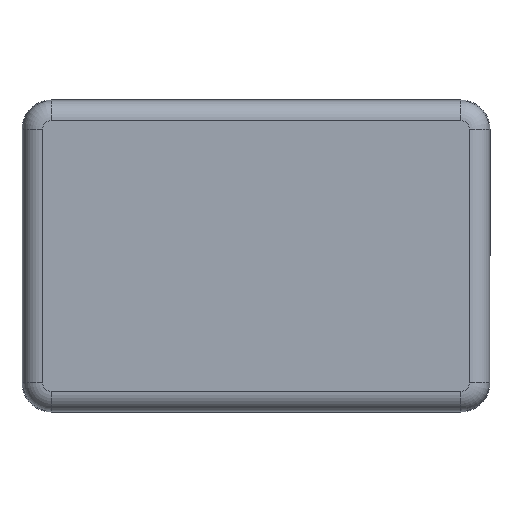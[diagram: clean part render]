
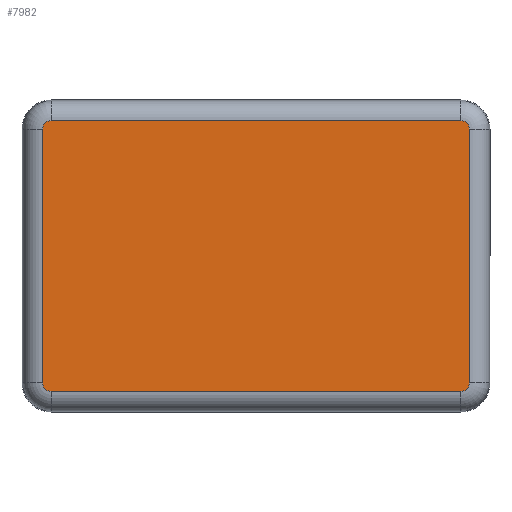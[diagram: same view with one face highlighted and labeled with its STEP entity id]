
A CAD part, front view. The second image highlights one B-rep face of the part: STEP entity #7982.
In plain terms, the highlighted planar face has unit normal (0, -1, 0).
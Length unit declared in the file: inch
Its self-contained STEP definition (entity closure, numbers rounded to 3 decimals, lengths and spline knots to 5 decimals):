
#30 = DIRECTION ( 'NONE',  ( 0., -1., 0. ) ) ;
#89 = EDGE_CURVE ( 'NONE', #6466, #7573, #4845, .T. ) ;
#93 = CARTESIAN_POINT ( 'NONE',  ( 2.73959, -0.75055, -1.627 ) ) ;
#203 = ORIENTED_EDGE ( 'NONE', *, *, #89, .T. ) ;
#329 = ORIENTED_EDGE ( 'NONE', *, *, #1361, .T. ) ;
#702 = DIRECTION ( 'NONE',  ( 0., 0., -1. ) ) ;
#758 = VECTOR ( 'NONE', #1447, 39.37008 ) ;
#773 = CIRCLE ( 'NONE', #6957, 0.11161 ) ;
#933 = CIRCLE ( 'NONE', #2355, 0.11161 ) ;
#1026 = DIRECTION ( 'NONE',  ( 0., 0., 1. ) ) ;
#1076 = CARTESIAN_POINT ( 'NONE',  ( 2.73959, -0.75055, -1.627 ) ) ;
#1304 = ORIENTED_EDGE ( 'NONE', *, *, #7800, .T. ) ;
#1305 = DIRECTION ( 'NONE',  ( 0., -1., 0. ) ) ;
#1361 = EDGE_CURVE ( 'NONE', #2479, #5509, #773, .T. ) ;
#1391 = ORIENTED_EDGE ( 'NONE', *, *, #6522, .T. ) ;
#1447 = DIRECTION ( 'NONE',  ( 0., 0., -1. ) ) ;
#1536 = VERTEX_POINT ( 'NONE', #1076 ) ;
#1582 = EDGE_CURVE ( 'NONE', #1536, #2479, #8678, .T. ) ;
#1602 = CARTESIAN_POINT ( 'NONE',  ( 2.62798, -0.75055, -1.73861 ) ) ;
#2055 = EDGE_CURVE ( 'NONE', #6417, #5141, #10951, .T. ) ;
#2355 = AXIS2_PLACEMENT_3D ( 'NONE', #3208, #7361, #6479 ) ;
#2479 = VERTEX_POINT ( 'NONE', #5664 ) ;
#2773 = ORIENTED_EDGE ( 'NONE', *, *, #7583, .T. ) ;
#2823 = DIRECTION ( 'NONE',  ( -1., 0., 0. ) ) ;
#3151 = ORIENTED_EDGE ( 'NONE', *, *, #9033, .T. ) ;
#3202 = PLANE ( 'NONE',  #10005 ) ;
#3208 = CARTESIAN_POINT ( 'NONE',  ( -2.62798, -0.75055, 1.627 ) ) ;
#3590 = CARTESIAN_POINT ( 'NONE',  ( -2.62798, -0.75055, 1.73861 ) ) ;
#4264 = ORIENTED_EDGE ( 'NONE', *, *, #1582, .T. ) ;
#4423 = VERTEX_POINT ( 'NONE', #5598 ) ;
#4428 = LINE ( 'NONE', #3590, #6799 ) ;
#4717 = AXIS2_PLACEMENT_3D ( 'NONE', #6160, #10596, #10381 ) ;
#4845 = LINE ( 'NONE', #5006, #758 ) ;
#4878 = DIRECTION ( 'NONE',  ( 0., 0., -1. ) ) ;
#4899 = EDGE_LOOP ( 'NONE', ( #329, #1304, #1391, #203, #2773, #5736, #3151, #4264 ) ) ;
#5006 = CARTESIAN_POINT ( 'NONE',  ( -2.73959, -0.75055, -1.627 ) ) ;
#5141 = VERTEX_POINT ( 'NONE', #1602 ) ;
#5403 = AXIS2_PLACEMENT_3D ( 'NONE', #9745, #1305, #5597 ) ;
#5509 = VERTEX_POINT ( 'NONE', #10458 ) ;
#5597 = DIRECTION ( 'NONE',  ( 0., 0., -1. ) ) ;
#5598 = CARTESIAN_POINT ( 'NONE',  ( -2.62798, -0.75055, 1.73861 ) ) ;
#5649 = CARTESIAN_POINT ( 'NONE',  ( -2.73959, -0.75055, -1.627 ) ) ;
#5664 = CARTESIAN_POINT ( 'NONE',  ( 2.73959, -0.75055, 1.627 ) ) ;
#5696 = CARTESIAN_POINT ( 'NONE',  ( -2.62798, -0.75055, -1.627 ) ) ;
#5736 = ORIENTED_EDGE ( 'NONE', *, *, #2055, .T. ) ;
#6160 = CARTESIAN_POINT ( 'NONE',  ( 2.62798, -0.75055, -1.627 ) ) ;
#6259 = CARTESIAN_POINT ( 'NONE',  ( -2.62798, -0.75055, -1.73861 ) ) ;
#6417 = VERTEX_POINT ( 'NONE', #6259 ) ;
#6466 = VERTEX_POINT ( 'NONE', #8250 ) ;
#6479 = DIRECTION ( 'NONE',  ( 0., 0., -1. ) ) ;
#6522 = EDGE_CURVE ( 'NONE', #4423, #6466, #933, .T. ) ;
#6799 = VECTOR ( 'NONE', #2823, 39.37008 ) ;
#6957 = AXIS2_PLACEMENT_3D ( 'NONE', #8126, #30, #4878 ) ;
#7361 = DIRECTION ( 'NONE',  ( 0., -1., 0. ) ) ;
#7510 = DIRECTION ( 'NONE',  ( 0., -1., 0. ) ) ;
#7573 = VERTEX_POINT ( 'NONE', #5649 ) ;
#7583 = EDGE_CURVE ( 'NONE', #7573, #6417, #10353, .T. ) ;
#7800 = EDGE_CURVE ( 'NONE', #5509, #4423, #4428, .T. ) ;
#7982 = ADVANCED_FACE ( 'NONE', ( #10806 ), #3202, .T. ) ;
#8126 = CARTESIAN_POINT ( 'NONE',  ( 2.62798, -0.75055, 1.627 ) ) ;
#8149 = DIRECTION ( 'NONE',  ( 1., 0., 0. ) ) ;
#8219 = VECTOR ( 'NONE', #8149, 39.37008 ) ;
#8250 = CARTESIAN_POINT ( 'NONE',  ( -2.73959, -0.75055, 1.627 ) ) ;
#8322 = CARTESIAN_POINT ( 'NONE',  ( -2.62798, -0.75055, -1.73861 ) ) ;
#8678 = LINE ( 'NONE', #93, #9278 ) ;
#9033 = EDGE_CURVE ( 'NONE', #5141, #1536, #10922, .T. ) ;
#9278 = VECTOR ( 'NONE', #1026, 39.37008 ) ;
#9745 = CARTESIAN_POINT ( 'NONE',  ( -2.62798, -0.75055, -1.627 ) ) ;
#10005 = AXIS2_PLACEMENT_3D ( 'NONE', #5696, #7510, #702 ) ;
#10353 = CIRCLE ( 'NONE', #5403, 0.11161 ) ;
#10381 = DIRECTION ( 'NONE',  ( 0., 0., -1. ) ) ;
#10458 = CARTESIAN_POINT ( 'NONE',  ( 2.62798, -0.75055, 1.73861 ) ) ;
#10596 = DIRECTION ( 'NONE',  ( 0., -1., 0. ) ) ;
#10806 = FACE_OUTER_BOUND ( 'NONE', #4899, .T. ) ;
#10922 = CIRCLE ( 'NONE', #4717, 0.11161 ) ;
#10951 = LINE ( 'NONE', #8322, #8219 ) ;
